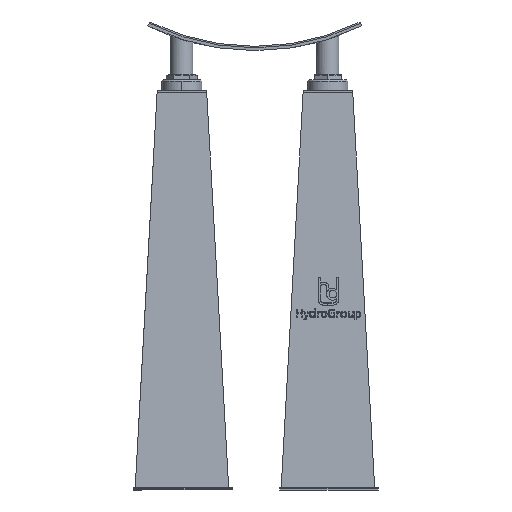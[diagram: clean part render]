
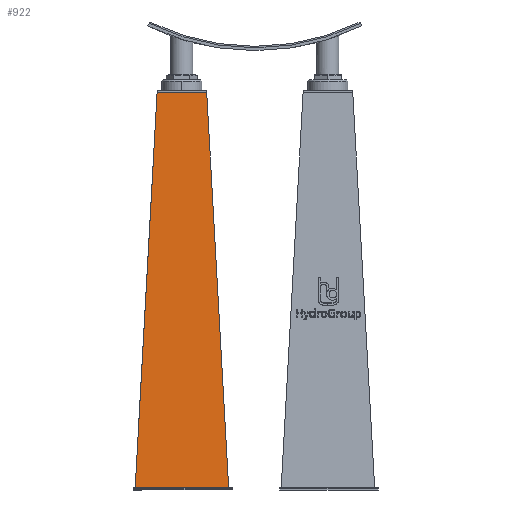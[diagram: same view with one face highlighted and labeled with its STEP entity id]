
A CAD part, front view. The second image highlights one B-rep face of the part: STEP entity #922.
In plain terms, the highlighted planar face has unit normal (0, -0.999, 0.055).
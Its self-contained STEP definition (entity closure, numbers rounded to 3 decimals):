
#922=ADVANCED_FACE('',(#2031),#2032,.F.);
#2031=FACE_OUTER_BOUND('',#3418,.T.);
#2032=PLANE('',#3419);
#3418=EDGE_LOOP('',(#6108,#6109,#6110,#6111));
#3419=AXIS2_PLACEMENT_3D('',#6112,#6113,#6114);
#6108=ORIENTED_EDGE('',*,*,#8983,.F.);
#6109=ORIENTED_EDGE('',*,*,#9017,.F.);
#6110=ORIENTED_EDGE('',*,*,#9011,.F.);
#6111=ORIENTED_EDGE('',*,*,#8737,.T.);
#6112=CARTESIAN_POINT('',(154.468,289.556,446.976));
#6113=DIRECTION('',(0.,0.998,-0.055));
#6114=DIRECTION('',(1.0,0.,0.));
#8737=EDGE_CURVE('',#10426,#10423,#10427,.F.);
#8983=EDGE_CURVE('',#10750,#10423,#10752,.F.);
#9011=EDGE_CURVE('',#10426,#10785,#10790,.T.);
#9017=EDGE_CURVE('',#10785,#10750,#10796,.T.);
#10423=VERTEX_POINT('',#13144);
#10426=VERTEX_POINT('',#13148);
#10427=LINE('',#13149,#13150);
#10750=VERTEX_POINT('',#13735);
#10752=LINE('',#13738,#13739);
#10785=VERTEX_POINT('',#13787);
#10790=LINE('',#13795,#13796);
#10796=LINE('',#13803,#13804);
#13144=CARTESIAN_POINT('',(-38.537,229.547,-635.19));
#13148=CARTESIAN_POINT('',(21.463,289.547,446.81));
#13149=CARTESIAN_POINT('',(21.68,289.764,450.724));
#13150=VECTOR('',#16726,1.);
#13735=CARTESIAN_POINT('',(217.473,229.547,-635.19));
#13738=CARTESIAN_POINT('',(121.968,229.547,-635.19));
#13739=VECTOR('',#16902,1.0);
#13787=CARTESIAN_POINT('',(157.473,289.547,446.81));
#13795=CARTESIAN_POINT('',(121.968,289.547,446.81));
#13796=VECTOR('',#16921,1.0);
#13803=CARTESIAN_POINT('',(157.256,289.764,450.724));
#13804=VECTOR('',#16923,1.);
#16726=DIRECTION('',(0.055,0.055,0.997));
#16902=DIRECTION('',(1.0,0.,0.));
#16921=DIRECTION('',(1.0,0.,0.));
#16923=DIRECTION('',(0.055,-0.055,-0.997));
